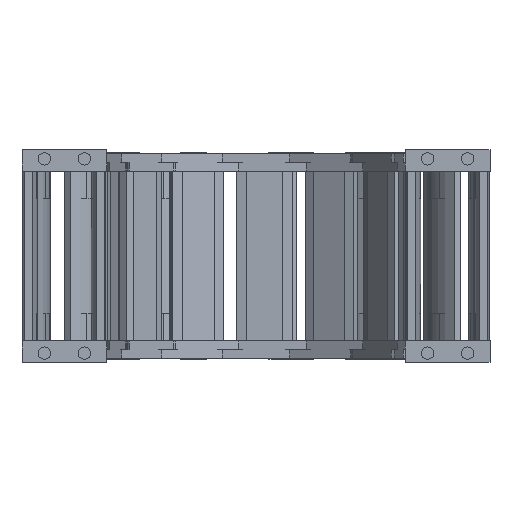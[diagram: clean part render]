
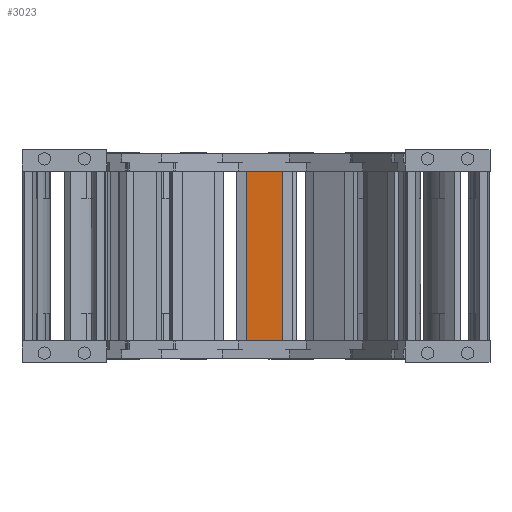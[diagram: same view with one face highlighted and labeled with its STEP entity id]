
A CAD part, left-side view. The second image highlights one B-rep face of the part: STEP entity #3023.
In plain terms, the highlighted planar face has unit normal (-0.999, 0.054, 0) as drawn and (0, 1, 0) by its records, which use the part's own axes.
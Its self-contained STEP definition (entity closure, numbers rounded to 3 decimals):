
#2766=DIRECTION('',(1.,0.,0.));
#2767=VECTOR('',#2766,23.);
#2768=CARTESIAN_POINT('',(-11.5,3.,97.8));
#2769=LINE('',#2768,#2767);
#2815=DIRECTION('',(0.,0.,-1.));
#2816=VECTOR('',#2815,110.3);
#2817=CARTESIAN_POINT('',(11.5,3.,97.8));
#2818=LINE('',#2817,#2816);
#2837=DIRECTION('',(-1.,0.,0.));
#2838=VECTOR('',#2837,23.);
#2839=CARTESIAN_POINT('',(11.5,3.,-12.5));
#2840=LINE('',#2839,#2838);
#2851=DIRECTION('',(0.,0.,-1.));
#2852=VECTOR('',#2851,110.3);
#2853=CARTESIAN_POINT('',(-11.5,3.,97.8));
#2854=LINE('',#2853,#2852);
#2878=CARTESIAN_POINT('',(11.5,3.,97.8));
#2879=VERTEX_POINT('',#2878);
#2882=CARTESIAN_POINT('',(-11.5,3.,97.8));
#2883=VERTEX_POINT('',#2882);
#2890=CARTESIAN_POINT('',(11.5,3.,-12.5));
#2891=VERTEX_POINT('',#2890);
#2892=CARTESIAN_POINT('',(-11.5,3.,-12.5));
#2893=VERTEX_POINT('',#2892);
#3011=CARTESIAN_POINT('',(15.5,3.,47.8));
#3012=DIRECTION('',(0.,1.,0.));
#3013=DIRECTION('',(-1.,0.,0.));
#3014=AXIS2_PLACEMENT_3D('',#3011,#3012,#3013);
#3015=PLANE('',#3014);
#3017=ORIENTED_EDGE('',*,*,#3016,.T.);
#3018=ORIENTED_EDGE('',*,*,#2995,.F.);
#3019=ORIENTED_EDGE('',*,*,#2975,.F.);
#3020=ORIENTED_EDGE('',*,*,#2907,.F.);
#3021=EDGE_LOOP('',(#3017,#3018,#3019,#3020));
#3022=FACE_OUTER_BOUND('',#3021,.F.);
#3023=ADVANCED_FACE('',(#3022),#3015,.T.);
#2907=EDGE_CURVE('',#2883,#2879,#2769,.T.);
#2975=EDGE_CURVE('',#2879,#2891,#2818,.T.);
#2995=EDGE_CURVE('',#2891,#2893,#2840,.T.);
#3016=EDGE_CURVE('',#2883,#2893,#2854,.T.);
